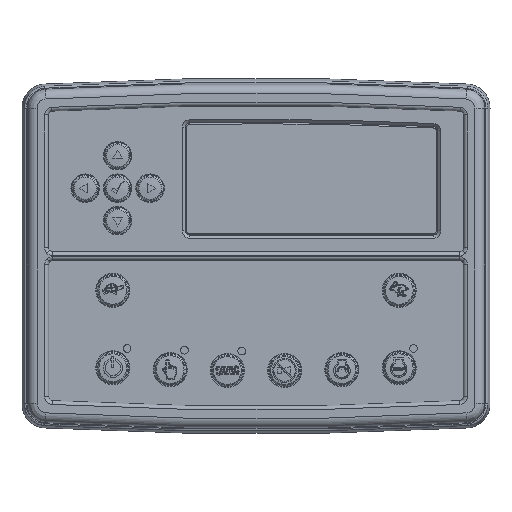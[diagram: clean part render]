
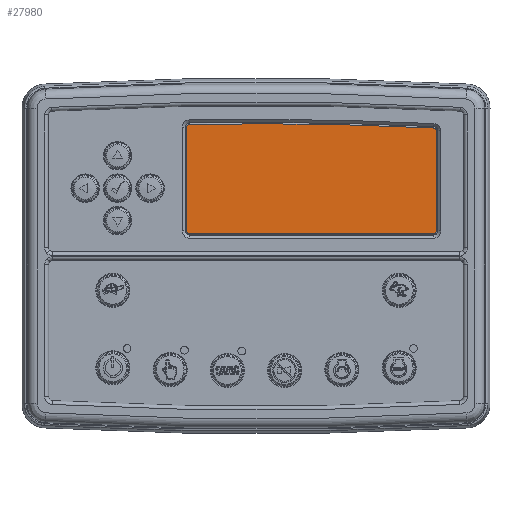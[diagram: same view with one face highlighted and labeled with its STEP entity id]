
A CAD part, top view. The second image highlights one B-rep face of the part: STEP entity #27980.
In plain terms, the highlighted planar face has unit normal (0, 0, 1).
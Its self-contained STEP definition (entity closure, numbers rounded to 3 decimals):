
#148 = VERTEX_POINT ( 'NONE', #55758 ) ;
#1573 = CARTESIAN_POINT ( 'NONE',  ( 93.088, 67.048, 6.1 ) ) ;
#3349 = CARTESIAN_POINT ( 'NONE',  ( -34.85, 67.532, 6.1 ) ) ;
#5561 = DIRECTION ( 'NONE',  ( 1., 0., 0. ) ) ;
#5574 = DIRECTION ( 'NONE',  ( 0., 0., 1. ) ) ;
#7596 = CIRCLE ( 'NONE', #47742, 1.43 ) ;
#8315 = EDGE_CURVE ( 'NONE', #46975, #20781, #89151, .T. ) ;
#9863 = CARTESIAN_POINT ( 'NONE',  ( -36.28, 67.532, 6.1 ) ) ;
#11398 = AXIS2_PLACEMENT_3D ( 'NONE', #72087, #36623, #15689 ) ;
#13015 = FACE_OUTER_BOUND ( 'NONE', #20665, .T. ) ;
#14077 = ORIENTED_EDGE ( 'NONE', *, *, #8315, .T. ) ;
#14142 = ORIENTED_EDGE ( 'NONE', *, *, #82131, .T. ) ;
#15689 = DIRECTION ( 'NONE',  ( 1., 0., 0. ) ) ;
#15861 = CIRCLE ( 'NONE', #11398, 1978.643 ) ;
#16118 = VECTOR ( 'NONE', #44683, 1000. ) ;
#19337 = EDGE_CURVE ( 'NONE', #74900, #46975, #91820, .T. ) ;
#20665 = EDGE_LOOP ( 'NONE', ( #37469, #39131, #76406, #14142, #56806, #14077, #44382, #43964 ) ) ;
#20781 = VERTEX_POINT ( 'NONE', #85688 ) ;
#22062 = CARTESIAN_POINT ( 'NONE',  ( 93.02, 65.619, 6.1 ) ) ;
#22990 = VERTEX_POINT ( 'NONE', #57647 ) ;
#23071 = EDGE_CURVE ( 'NONE', #85333, #22990, #15861, .T. ) ;
#23150 = LINE ( 'NONE', #74890, #60718 ) ;
#25152 = AXIS2_PLACEMENT_3D ( 'NONE', #57714, #50751, #30645 ) ;
#27494 = DIRECTION ( 'NONE',  ( 0., 0., 1. ) ) ;
#27897 = DIRECTION ( 'NONE',  ( 0., 0., 1. ) ) ;
#27980 = ADVANCED_FACE ( 'NONE', ( #13015 ), #83407, .T. ) ;
#30645 = DIRECTION ( 'NONE',  ( 1., 0., 0. ) ) ;
#32464 = VECTOR ( 'NONE', #34982, 1000. ) ;
#33992 = CARTESIAN_POINT ( 'NONE',  ( 31.374, 40.087, 6.1 ) ) ;
#34982 = DIRECTION ( 'NONE',  ( 1., 0., 0. ) ) ;
#36154 = CARTESIAN_POINT ( 'NONE',  ( -34.85, 11.661, 6.1 ) ) ;
#36623 = DIRECTION ( 'NONE',  ( 0., 0., 1. ) ) ;
#37469 = ORIENTED_EDGE ( 'NONE', *, *, #23071, .T. ) ;
#39131 = ORIENTED_EDGE ( 'NONE', *, *, #87885, .T. ) ;
#43964 = ORIENTED_EDGE ( 'NONE', *, *, #89699, .T. ) ;
#44382 = ORIENTED_EDGE ( 'NONE', *, *, #53345, .T. ) ;
#44683 = DIRECTION ( 'NONE',  ( 0., 1., 0. ) ) ;
#45989 = DIRECTION ( 'NONE',  ( 0., -1., 0. ) ) ;
#46975 = VERTEX_POINT ( 'NONE', #74410 ) ;
#47742 = AXIS2_PLACEMENT_3D ( 'NONE', #3349, #27494, #55928 ) ;
#48411 = DIRECTION ( 'NONE',  ( 1., 0., 0. ) ) ;
#49818 = AXIS2_PLACEMENT_3D ( 'NONE', #76432, #5574, #48411 ) ;
#50041 = DIRECTION ( 'NONE',  ( 0., 0., 1. ) ) ;
#50751 = DIRECTION ( 'NONE',  ( 0., 0., 1. ) ) ;
#53345 = EDGE_CURVE ( 'NONE', #20781, #62571, #88460, .T. ) ;
#55758 = CARTESIAN_POINT ( 'NONE',  ( -36.28, 13.09, 6.1 ) ) ;
#55928 = DIRECTION ( 'NONE',  ( 1., 0., 0. ) ) ;
#56806 = ORIENTED_EDGE ( 'NONE', *, *, #19337, .T. ) ;
#56934 = CARTESIAN_POINT ( 'NONE',  ( 31.374, 11.661, 6.1 ) ) ;
#57262 = VERTEX_POINT ( 'NONE', #9863 ) ;
#57647 = CARTESIAN_POINT ( 'NONE',  ( -34.875, 68.962, 6.1 ) ) ;
#57714 = CARTESIAN_POINT ( 'NONE',  ( 93.02, 13.09, 6.1 ) ) ;
#59742 = AXIS2_PLACEMENT_3D ( 'NONE', #22062, #50041, #64969 ) ;
#60718 = VECTOR ( 'NONE', #45989, 1000. ) ;
#62571 = VERTEX_POINT ( 'NONE', #73356 ) ;
#64925 = AXIS2_PLACEMENT_3D ( 'NONE', #33992, #27897, #5561 ) ;
#64969 = DIRECTION ( 'NONE',  ( 1., 0., 0. ) ) ;
#72087 = CARTESIAN_POINT ( 'NONE',  ( -0.47, -1909.383, 6.1 ) ) ;
#72821 = EDGE_CURVE ( 'NONE', #57262, #148, #23150, .T. ) ;
#73356 = CARTESIAN_POINT ( 'NONE',  ( 94.45, 65.619, 6.1 ) ) ;
#74410 = CARTESIAN_POINT ( 'NONE',  ( 93.02, 11.661, 6.1 ) ) ;
#74890 = CARTESIAN_POINT ( 'NONE',  ( -36.28, 40.087, 6.1 ) ) ;
#74900 = VERTEX_POINT ( 'NONE', #36154 ) ;
#76406 = ORIENTED_EDGE ( 'NONE', *, *, #72821, .T. ) ;
#76432 = CARTESIAN_POINT ( 'NONE',  ( -34.85, 13.09, 6.1 ) ) ;
#78112 = CIRCLE ( 'NONE', #49818, 1.43 ) ;
#82131 = EDGE_CURVE ( 'NONE', #148, #74900, #78112, .T. ) ;
#83407 = PLANE ( 'NONE',  #64925 ) ;
#84991 = CIRCLE ( 'NONE', #59742, 1.43 ) ;
#85333 = VERTEX_POINT ( 'NONE', #1573 ) ;
#85688 = CARTESIAN_POINT ( 'NONE',  ( 94.45, 13.09, 6.1 ) ) ;
#87885 = EDGE_CURVE ( 'NONE', #22990, #57262, #7596, .T. ) ;
#88014 = CARTESIAN_POINT ( 'NONE',  ( 94.45, 40.087, 6.1 ) ) ;
#88460 = LINE ( 'NONE', #88014, #16118 ) ;
#89151 = CIRCLE ( 'NONE', #25152, 1.43 ) ;
#89699 = EDGE_CURVE ( 'NONE', #62571, #85333, #84991, .T. ) ;
#91820 = LINE ( 'NONE', #56934, #32464 ) ;
